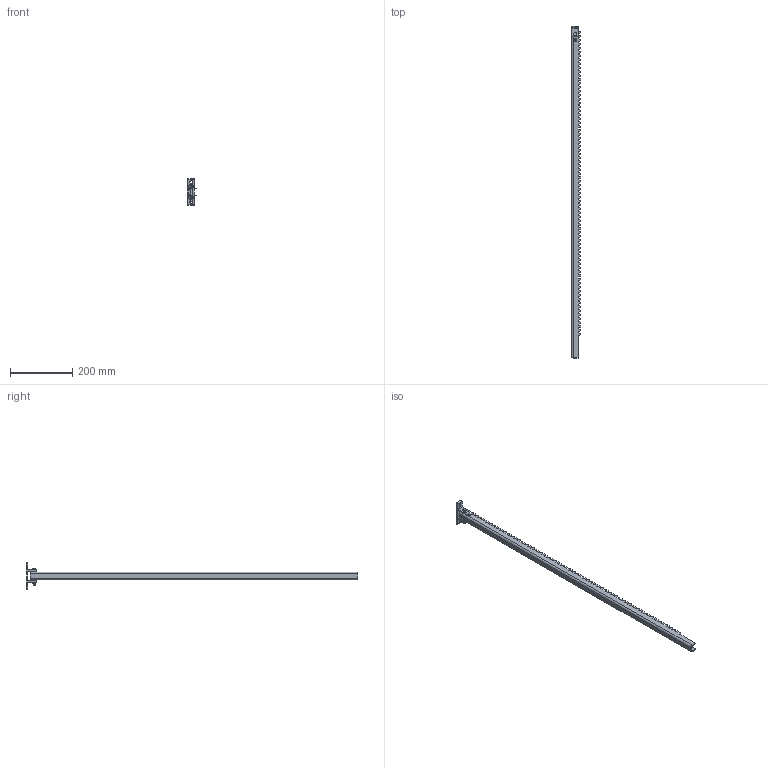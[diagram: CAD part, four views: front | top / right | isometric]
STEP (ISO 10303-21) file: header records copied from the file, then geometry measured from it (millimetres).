
FILE_DESCRIPTION (( 'STEP AP214' ), '1' );
FILE_NAME ('Zahnstange_10171028.STEP', '2018-12-11T08:14:14', ( '' ), ( '' ), 'SwSTEP 2.0', 'SolidWorks 2018', '' );
FILE_SCHEMA (( 'AUTOMOTIVE_DESIGN' ));
Length unit declared in the file: millimetre
Products named in the file (6): Montageplatte_10140229_Standard; Mutter_10001793_Standard; Zahnstange_10015299_Standard; Schraube_10148565_ISO 4017 - M6 x 50-N; Zahnstange_10171028; Montageplatte_10148566_Standard
Assembly tree (5 placements, depth 3):
  Zahnstange_10171028
    Zahnstange_10015299_Standard
    Montageplatte_10148566_Standard
      Montageplatte_10140229_Standard
      Schraube_10148565_ISO 4017 - M6 x 50-N
      Mutter_10001793_Standard
Bounding box: 30 x 1064 x 85 mm (x, y, z)
Volume: 224937.4 mm3; surface area: 161341.4 mm2
Topology: 4 solids, 4 shells, 870 faces, 2522 edges, 1670 vertices
Faces by surface type: plane 757, cylinder 87, cone 20, torus 6
Entity records: 28564 total; most frequent: CARTESIAN_POINT 5251, ORIENTED_EDGE 5044, DIRECTION 4454, EDGE_CURVE 2522, LINE 2276, VECTOR 2276, VERTEX_POINT 1670, AXIS2_PLACEMENT_3D 1089
